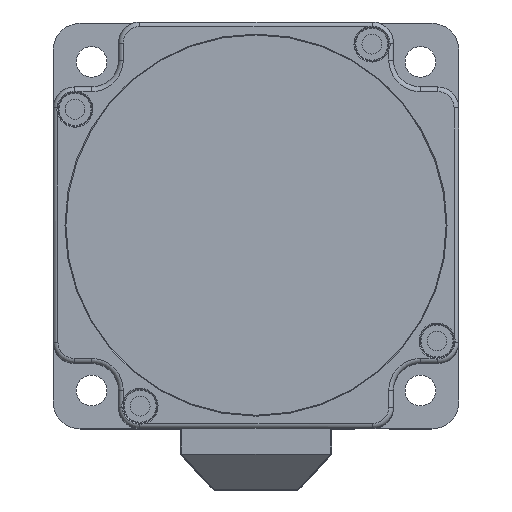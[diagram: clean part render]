
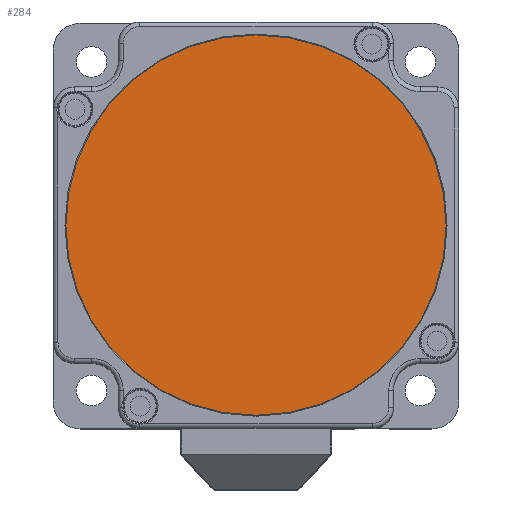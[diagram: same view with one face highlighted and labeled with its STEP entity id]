
A CAD part, top view. The second image highlights one B-rep face of the part: STEP entity #284.
In plain terms, the highlighted planar face has unit normal (0, 0, 1) as drawn and (0, 0, -1) by its records, which use the part's own axes.
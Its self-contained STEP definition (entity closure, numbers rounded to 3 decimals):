
#284 = ADVANCED_FACE ( 'NONE', ( #9364 ), #4204, .T. ) ;
#709 = AXIS2_PLACEMENT_3D ( 'NONE', #16836, #8604, #8661 ) ;
#952 = CIRCLE ( 'NONE', #709, 40.25 ) ;
#2700 = DIRECTION ( 'NONE',  ( -1., 0., 0. ) ) ;
#2731 = CARTESIAN_POINT ( 'NONE',  ( -40.25, 0., 0.4 ) ) ;
#4177 = VERTEX_POINT ( 'NONE', #2731 ) ;
#4204 = PLANE ( 'NONE',  #10876 ) ;
#5549 = ORIENTED_EDGE ( 'NONE', *, *, #15898, .T. ) ;
#6957 = DIRECTION ( 'NONE',  ( 0., 0., -1. ) ) ;
#8604 = DIRECTION ( 'NONE',  ( 0., 0., -1. ) ) ;
#8661 = DIRECTION ( 'NONE',  ( -1., 0., 0. ) ) ;
#9364 = FACE_OUTER_BOUND ( 'NONE', #15063, .T. ) ;
#10876 = AXIS2_PLACEMENT_3D ( 'NONE', #12234, #6957, #2700 ) ;
#12234 = CARTESIAN_POINT ( 'NONE',  ( 0., 0., 0.4 ) ) ;
#15063 = EDGE_LOOP ( 'NONE', ( #5549 ) ) ;
#15898 = EDGE_CURVE ( 'NONE', #4177, #4177, #952, .T. ) ;
#16836 = CARTESIAN_POINT ( 'NONE',  ( 0., 0., 0.4 ) ) ;
